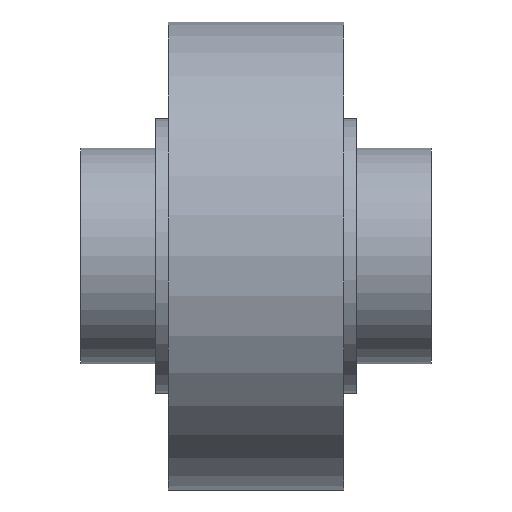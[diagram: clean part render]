
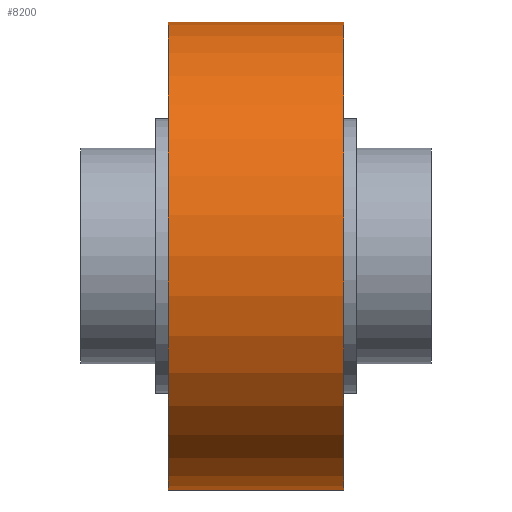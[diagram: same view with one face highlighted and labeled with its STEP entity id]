
A CAD part, top view. The second image highlights one B-rep face of the part: STEP entity #8200.
In plain terms, the highlighted cylindrical face has radius 157.5 mm (diameter 315 mm), a partial arc.
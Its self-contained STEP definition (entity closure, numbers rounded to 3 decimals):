
#7952=CARTESIAN_POINT('',(59.,0.,0.));
#7953=DIRECTION('',(1.,0.,0.));
#7954=DIRECTION('',(0.,1.,0.));
#7955=AXIS2_PLACEMENT_3D('',#7952,#7953,#7954);
#7957=DIRECTION('',(-1.,0.,0.));
#7958=VECTOR('',#7957,118.);
#7959=CARTESIAN_POINT('',(59.,157.5,0.));
#7960=LINE('',#7959,#7958);
#7961=DIRECTION('',(-1.,0.,0.));
#7962=VECTOR('',#7961,118.);
#7963=CARTESIAN_POINT('',(59.,-157.5,0.));
#7964=LINE('',#7963,#7962);
#7975=CARTESIAN_POINT('',(-59.,0.,0.));
#7976=DIRECTION('',(1.,0.,0.));
#7977=DIRECTION('',(0.,1.,0.));
#7978=AXIS2_PLACEMENT_3D('',#7975,#7976,#7977);
#8032=CARTESIAN_POINT('',(59.,157.5,0.));
#8033=CARTESIAN_POINT('',(-59.,157.5,0.));
#8034=VERTEX_POINT('',#8032);
#8035=VERTEX_POINT('',#8033);
#8040=CARTESIAN_POINT('',(59.,-157.5,0.));
#8041=CARTESIAN_POINT('',(-59.,-157.5,0.));
#8042=VERTEX_POINT('',#8040);
#8043=VERTEX_POINT('',#8041);
#8186=CARTESIAN_POINT('',(-64.9,0.,0.));
#8187=DIRECTION('',(1.,0.,0.));
#8188=DIRECTION('',(0.,-1.,0.));
#8189=AXIS2_PLACEMENT_3D('',#8186,#8187,#8188);
#8190=CYLINDRICAL_SURFACE('',#8189,157.5);
#8192=ORIENTED_EDGE('',*,*,#8191,.F.);
#8193=ORIENTED_EDGE('',*,*,#8175,.T.);
#8195=ORIENTED_EDGE('',*,*,#8194,.T.);
#8197=ORIENTED_EDGE('',*,*,#8196,.F.);
#8198=EDGE_LOOP('',(#8192,#8193,#8195,#8197));
#8199=FACE_OUTER_BOUND('',#8198,.F.);
#8200=ADVANCED_FACE('',(#8199),#8190,.T.);
#7956=CIRCLE('',#7955,157.5);
#7979=CIRCLE('',#7978,157.5);
#8175=EDGE_CURVE('',#8034,#8042,#7956,.T.);
#8191=EDGE_CURVE('',#8034,#8035,#7960,.T.);
#8194=EDGE_CURVE('',#8042,#8043,#7964,.T.);
#8196=EDGE_CURVE('',#8035,#8043,#7979,.T.);
